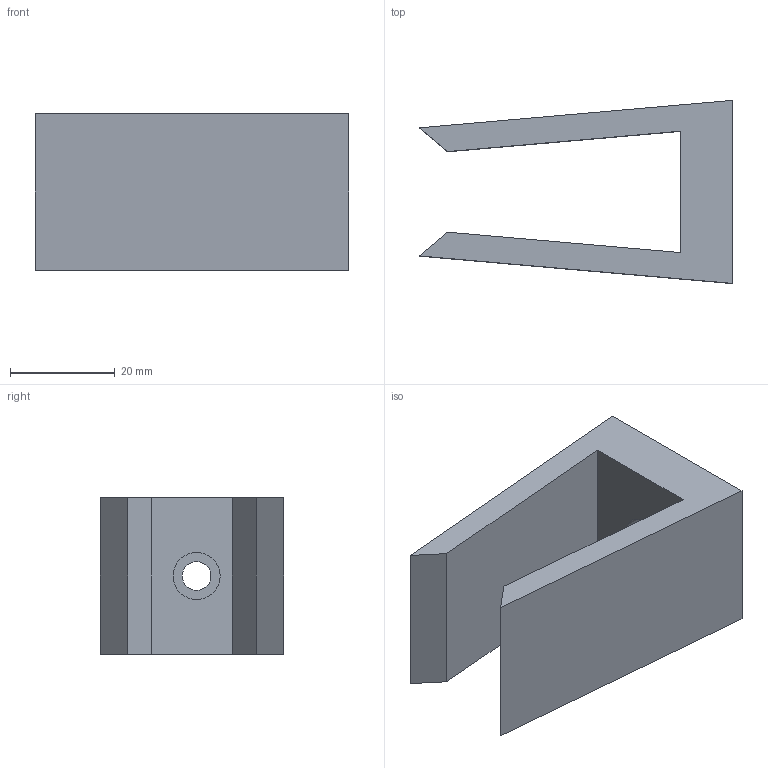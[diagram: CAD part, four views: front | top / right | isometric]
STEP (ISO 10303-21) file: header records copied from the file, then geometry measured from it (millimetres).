
FILE_DESCRIPTION(/* description */ (''),/* implementation_level */ '2;1');
FILE_NAME(/* name */ 'Adapter_3_PAX v2.step',/* time_stamp */ '2026-04-10T14:25:40+02:00',/* author */ (''),/* organization */ (''),/* preprocessor_version */ 'ST-DEVELOPER v20.1',/* originating_system */ 'Autodesk Translation Framework v14.24.0.0',/* authorisation */ '');
FILE_SCHEMA (('AUTOMOTIVE_DESIGN { 1 0 10303 214 3 1 1 }'));
Length unit declared in the file: millimetre
Products named in the file (1): (Niezapisany)
Bounding box: 60 x 34.99 x 30 mm (x, y, z)
Volume: 23899.2 mm3; surface area: 10319.3 mm2
Topology: 1 solids, 1 shells, 13 faces, 30 edges, 20 vertices
Faces by surface type: plane 11, cylinder 2
Full cylindrical faces by diameter (mm): 5.5 x1, 9 x1
Entity records: 405 total; most frequent: CARTESIAN_POINT 64, DIRECTION 62, ORIENTED_EDGE 60, EDGE_CURVE 30, LINE 26, VECTOR 26, VERTEX_POINT 20, AXIS2_PLACEMENT_3D 18
